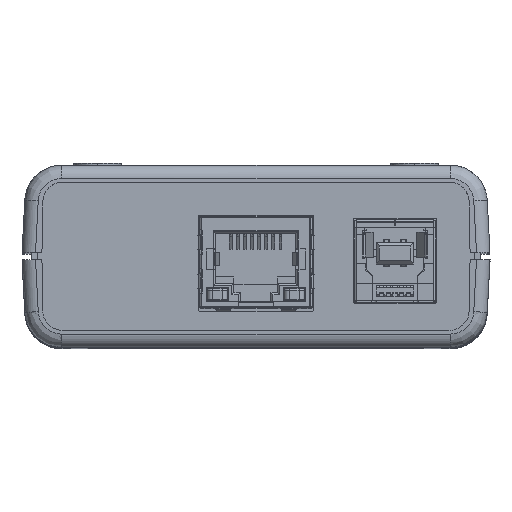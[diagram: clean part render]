
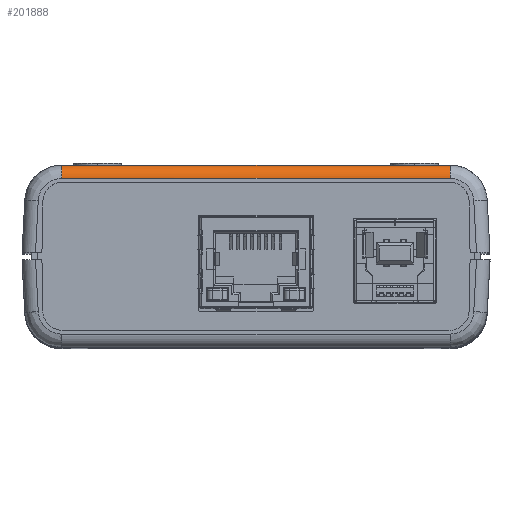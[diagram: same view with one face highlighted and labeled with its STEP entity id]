
A CAD part, top view. The second image highlights one B-rep face of the part: STEP entity #201888.
In plain terms, the highlighted cylindrical face has radius 2 mm (diameter 4 mm), a partial arc.
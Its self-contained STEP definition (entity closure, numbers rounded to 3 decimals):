
#20 = B_SPLINE_CURVE_WITH_KNOTS ( 'NONE', 3,
 ( #59521, #398574, #231914, #17086, #266002, #11541, #449548, #223519, #491876, #56712 ),
 .UNSPECIFIED., .F., .F.,
 ( 4, 2, 2, 2, 4 ),
 ( 0., 0.25, 0.5, 0.75, 1. ),
 .UNSPECIFIED. ) ;
#9946 = CARTESIAN_POINT ( 'NONE',  ( -148.645, 0., -0.615 ) ) ;
#11541 = CARTESIAN_POINT ( 'NONE',  ( -91.083, -0.392, 0.602 ) ) ;
#11739 = ORIENTED_EDGE ( 'NONE', *, *, #211383, .T. ) ;
#12765 = CARTESIAN_POINT ( 'NONE',  ( -129.458, 0., -0.615 ) ) ;
#17086 = CARTESIAN_POINT ( 'NONE',  ( -91.083, -0.973, 1.12 ) ) ;
#42719 = CARTESIAN_POINT ( 'NONE',  ( -148.645, -0.973, 1.12 ) ) ;
#56712 = CARTESIAN_POINT ( 'NONE',  ( -91.083, 0., -0.615 ) ) ;
#59521 = CARTESIAN_POINT ( 'NONE',  ( -91.083, -1.965, 1.384 ) ) ;
#68140 = EDGE_CURVE ( 'NONE', #545784, #102322, #353679, .T. ) ;
#81438 = ORIENTED_EDGE ( 'NONE', *, *, #177491, .T. ) ;
#85080 = CARTESIAN_POINT ( 'NONE',  ( -148.645, -0.392, 0.602 ) ) ;
#85123 = FACE_OUTER_BOUND ( 'NONE', #460536, .T. ) ;
#93385 = CARTESIAN_POINT ( 'NONE',  ( -148.645, -1.706, 1.38 ) ) ;
#96224 = DIRECTION ( 'NONE',  ( -1., 0., 0. ) ) ;
#102322 = VERTEX_POINT ( 'NONE', #386438 ) ;
#105812 = VERTEX_POINT ( 'NONE', #401461 ) ;
#132993 = CARTESIAN_POINT ( 'NONE',  ( -148.645, -1.448, 1.324 ) ) ;
#177491 = EDGE_CURVE ( 'NONE', #545784, #371073, #20, .T. ) ;
#178551 = CARTESIAN_POINT ( 'NONE',  ( -119.864, -1.965, 1.384 ) ) ;
#194930 = B_SPLINE_CURVE_WITH_KNOTS ( 'NONE', 3,
 ( #477890, #260386, #472341, #392856, #85080, #480654, #42719, #132993, #93385, #427042 ),
 .UNSPECIFIED., .F., .F.,
 ( 4, 2, 2, 2, 4 ),
 ( 0., 0.25, 0.5, 0.75, 1. ),
 .UNSPECIFIED. ) ;
#201888 = ADVANCED_FACE ( 'NONE', ( #85123 ), #429890, .T. ) ;
#211383 = EDGE_CURVE ( 'NONE', #371073, #105812, #314996, .T. ) ;
#223519 = CARTESIAN_POINT ( 'NONE',  ( -91.083, -0.051, -0.098 ) ) ;
#231914 = CARTESIAN_POINT ( 'NONE',  ( -91.083, -1.448, 1.324 ) ) ;
#260386 = CARTESIAN_POINT ( 'NONE',  ( -148.645, 0., -0.357 ) ) ;
#262083 = ORIENTED_EDGE ( 'NONE', *, *, #68140, .F. ) ;
#266002 = CARTESIAN_POINT ( 'NONE',  ( -91.083, -0.755, 0.971 ) ) ;
#305597 = DIRECTION ( 'NONE',  ( 0., 1., 0. ) ) ;
#312364 = CARTESIAN_POINT ( 'NONE',  ( -91.083, 0., -0.615 ) ) ;
#314233 = DIRECTION ( 'NONE',  ( -1., 0., 0. ) ) ;
#314996 = B_SPLINE_CURVE_WITH_KNOTS ( 'NONE', 3,
 ( #312364, #315196, #12765, #9946 ),
 .UNSPECIFIED., .F., .F.,
 ( 4, 4 ),
 ( 0., 1. ),
 .UNSPECIFIED. ) ;
#315196 = CARTESIAN_POINT ( 'NONE',  ( -110.27, 0., -0.615 ) ) ;
#353679 = LINE ( 'NONE', #178551, #386222 ) ;
#371073 = VERTEX_POINT ( 'NONE', #468886 ) ;
#386222 = VECTOR ( 'NONE', #314233, 1000. ) ;
#386438 = CARTESIAN_POINT ( 'NONE',  ( -148.645, -1.965, 1.384 ) ) ;
#392856 = CARTESIAN_POINT ( 'NONE',  ( -148.645, -0.247, 0.382 ) ) ;
#398574 = CARTESIAN_POINT ( 'NONE',  ( -91.083, -1.706, 1.38 ) ) ;
#401461 = CARTESIAN_POINT ( 'NONE',  ( -148.645, 0., -0.615 ) ) ;
#427042 = CARTESIAN_POINT ( 'NONE',  ( -148.645, -1.965, 1.384 ) ) ;
#429890 = CYLINDRICAL_SURFACE ( 'NONE', #533380, 2. ) ;
#449548 = CARTESIAN_POINT ( 'NONE',  ( -91.083, -0.247, 0.382 ) ) ;
#455912 = ORIENTED_EDGE ( 'NONE', *, *, #462737, .T. ) ;
#460536 = EDGE_LOOP ( 'NONE', ( #11739, #455912, #262083, #81438 ) ) ;
#462737 = EDGE_CURVE ( 'NONE', #105812, #102322, #194930, .T. ) ;
#468886 = CARTESIAN_POINT ( 'NONE',  ( -91.083, 0., -0.615 ) ) ;
#472341 = CARTESIAN_POINT ( 'NONE',  ( -148.645, -0.051, -0.098 ) ) ;
#477890 = CARTESIAN_POINT ( 'NONE',  ( -148.645, 0., -0.615 ) ) ;
#480654 = CARTESIAN_POINT ( 'NONE',  ( -148.645, -0.755, 0.971 ) ) ;
#491876 = CARTESIAN_POINT ( 'NONE',  ( -91.083, 0., -0.357 ) ) ;
#517712 = CARTESIAN_POINT ( 'NONE',  ( -119.864, -2., -0.615 ) ) ;
#524593 = CARTESIAN_POINT ( 'NONE',  ( -91.083, -1.965, 1.384 ) ) ;
#533380 = AXIS2_PLACEMENT_3D ( 'NONE', #517712, #96224, #305597 ) ;
#545784 = VERTEX_POINT ( 'NONE', #524593 ) ;
